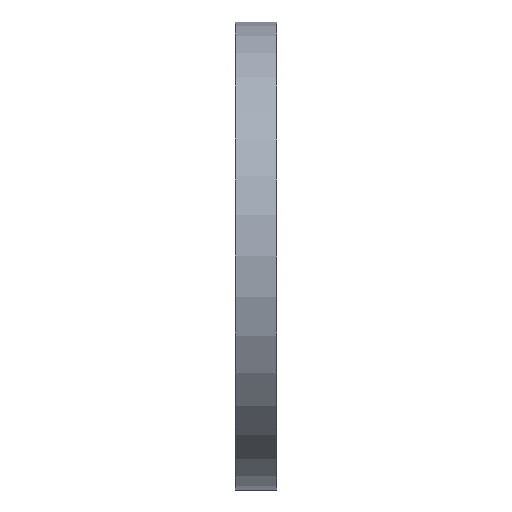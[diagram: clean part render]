
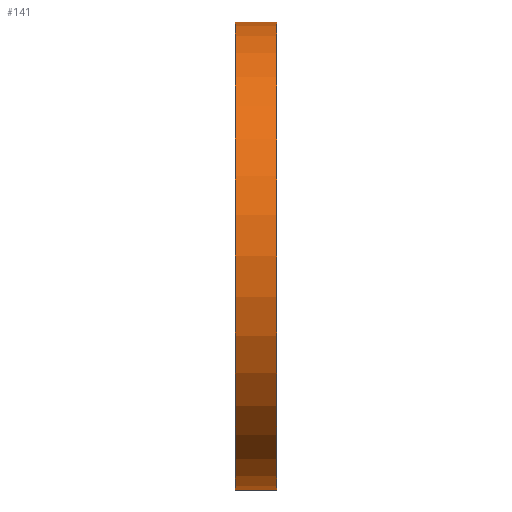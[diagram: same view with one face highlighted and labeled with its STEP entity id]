
A CAD part, front view. The second image highlights one B-rep face of the part: STEP entity #141.
In plain terms, the highlighted cylindrical face has radius 67.891 mm (diameter 135.782 mm), a partial arc.
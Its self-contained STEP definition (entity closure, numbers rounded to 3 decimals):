
#140 = AXIS2_PLACEMENT_3D ( 'NONE', #4664, #2001, #5849 ) ;
#141 = ADVANCED_FACE ( 'NONE', ( #8181 ), #222, .T. ) ;
#222 = CYLINDRICAL_SURFACE ( 'NONE', #10204, 67.891 ) ;
#358 = DIRECTION ( 'NONE',  ( 1., 0., 0. ) ) ;
#561 = EDGE_CURVE ( 'NONE', #9644, #11042, #6286, .T. ) ;
#943 = VECTOR ( 'NONE', #3752, 1000. ) ;
#1254 = CARTESIAN_POINT ( 'NONE',  ( -188.024, 0., 0. ) ) ;
#1288 = CIRCLE ( 'NONE', #7785, 67.891 ) ;
#1878 = ORIENTED_EDGE ( 'NONE', *, *, #4525, .T. ) ;
#2001 = DIRECTION ( 'NONE',  ( -1., 0., 0. ) ) ;
#2108 = LINE ( 'NONE', #5629, #9089 ) ;
#2474 = ORIENTED_EDGE ( 'NONE', *, *, #2748, .F. ) ;
#2561 = DIRECTION ( 'NONE',  ( 0., 0., -1. ) ) ;
#2748 = EDGE_CURVE ( 'NONE', #8021, #9644, #2936, .T. ) ;
#2894 = DIRECTION ( 'NONE',  ( 0., 0., -1. ) ) ;
#2936 = CIRCLE ( 'NONE', #140, 67.891 ) ;
#3359 = CARTESIAN_POINT ( 'NONE',  ( 4., 0., -67.891 ) ) ;
#3430 = CARTESIAN_POINT ( 'NONE',  ( 16., 0., 0. ) ) ;
#3752 = DIRECTION ( 'NONE',  ( 1., 0., 0. ) ) ;
#3947 = ORIENTED_EDGE ( 'NONE', *, *, #561, .F. ) ;
#4525 = EDGE_CURVE ( 'NONE', #8021, #4765, #2108, .T. ) ;
#4664 = CARTESIAN_POINT ( 'NONE',  ( 4., 0., 0. ) ) ;
#4720 = CARTESIAN_POINT ( 'NONE',  ( -188.024, 0., 67.891 ) ) ;
#4750 = EDGE_CURVE ( 'NONE', #11042, #4765, #1288, .T. ) ;
#4765 = VERTEX_POINT ( 'NONE', #8939 ) ;
#5629 = CARTESIAN_POINT ( 'NONE',  ( -188.024, 0., -67.891 ) ) ;
#5849 = DIRECTION ( 'NONE',  ( 0., 0., -1. ) ) ;
#6286 = LINE ( 'NONE', #4720, #943 ) ;
#7595 = ORIENTED_EDGE ( 'NONE', *, *, #4750, .F. ) ;
#7695 = CARTESIAN_POINT ( 'NONE',  ( 4., 0., 67.891 ) ) ;
#7785 = AXIS2_PLACEMENT_3D ( 'NONE', #3430, #10519, #2561 ) ;
#8021 = VERTEX_POINT ( 'NONE', #3359 ) ;
#8181 = FACE_OUTER_BOUND ( 'NONE', #9961, .T. ) ;
#8939 = CARTESIAN_POINT ( 'NONE',  ( 16., 0., -67.891 ) ) ;
#9089 = VECTOR ( 'NONE', #358, 1000. ) ;
#9644 = VERTEX_POINT ( 'NONE', #7695 ) ;
#9961 = EDGE_LOOP ( 'NONE', ( #3947, #2474, #1878, #7595 ) ) ;
#10204 = AXIS2_PLACEMENT_3D ( 'NONE', #1254, #10851, #2894 ) ;
#10519 = DIRECTION ( 'NONE',  ( 1., 0., 0. ) ) ;
#10738 = CARTESIAN_POINT ( 'NONE',  ( 16., 0., 67.891 ) ) ;
#10851 = DIRECTION ( 'NONE',  ( 1., 0., 0. ) ) ;
#11042 = VERTEX_POINT ( 'NONE', #10738 ) ;
